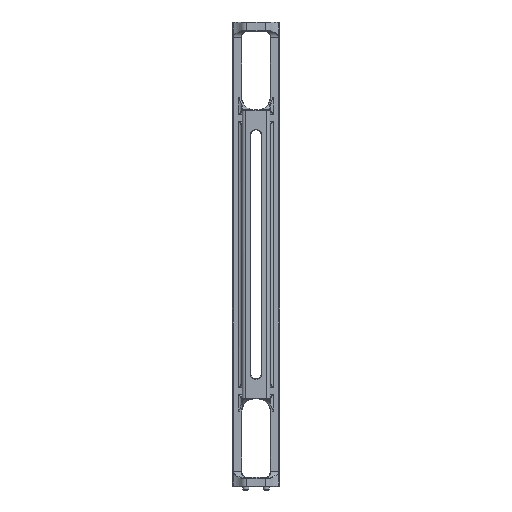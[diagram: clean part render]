
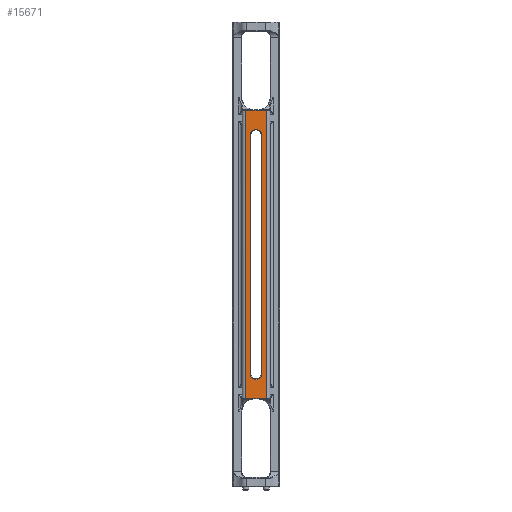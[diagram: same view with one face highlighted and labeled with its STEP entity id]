
A CAD part, front view. The second image highlights one B-rep face of the part: STEP entity #15671.
In plain terms, the highlighted planar face has unit normal (0, -1, 0).
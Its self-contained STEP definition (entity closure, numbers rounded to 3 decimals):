
#442 = ORIENTED_EDGE ( 'NONE', *, *, #7122, .T. ) ;
#912 = CARTESIAN_POINT ( 'NONE',  ( -3.5, 43.598, 119.848 ) ) ;
#965 = ORIENTED_EDGE ( 'NONE', *, *, #3956, .T. ) ;
#1145 = LINE ( 'NONE', #13637, #12261 ) ;
#1156 = EDGE_CURVE ( 'NONE', #6567, #6650, #15718, .T. ) ;
#1351 = CARTESIAN_POINT ( 'NONE',  ( 2.333, 43.598, 28.152 ) ) ;
#1498 = CARTESIAN_POINT ( 'NONE',  ( 3.5, 43.598, 12.311 ) ) ;
#1518 = CARTESIAN_POINT ( 'NONE',  ( 1.85, 43.598, 12.311 ) ) ;
#2040 = CARTESIAN_POINT ( 'NONE',  ( 0., 43.598, 28.152 ) ) ;
#2145 = VECTOR ( 'NONE', #13586, 1000. ) ;
#2158 = EDGE_CURVE ( 'NONE', #4256, #3081, #9572, .T. ) ;
#2231 = CARTESIAN_POINT ( 'NONE',  ( 0., 43.598, 119.848 ) ) ;
#2848 = EDGE_CURVE ( 'NONE', #6650, #12084, #12468, .T. ) ;
#3081 = VERTEX_POINT ( 'NONE', #7914 ) ;
#3441 = VERTEX_POINT ( 'NONE', #14604 ) ;
#3735 = DIRECTION ( 'NONE',  ( 0., 0., 1. ) ) ;
#3956 = EDGE_CURVE ( 'NONE', #12084, #13422, #5820, .T. ) ;
#4062 = CARTESIAN_POINT ( 'NONE',  ( 3.5, 43.598, 28.152 ) ) ;
#4118 = ORIENTED_EDGE ( 'NONE', *, *, #4577, .T. ) ;
#4256 = VERTEX_POINT ( 'NONE', #11727 ) ;
#4394 = VECTOR ( 'NONE', #8294, 1000. ) ;
#4417 = CARTESIAN_POINT ( 'NONE',  ( -1.85, 43.598, 112. ) ) ;
#4577 = EDGE_CURVE ( 'NONE', #8384, #15880, #14852, .T. ) ;
#5259 = FACE_BOUND ( 'NONE', #16697, .T. ) ;
#5506 = CARTESIAN_POINT ( 'NONE',  ( 3.5, 43.598, 119.848 ) ) ;
#5721 = VERTEX_POINT ( 'NONE', #4417 ) ;
#5820 = B_SPLINE_CURVE_WITH_KNOTS ( 'NONE', 3,
 ( #13912, #10872, #14756, #11876 ),
 .UNSPECIFIED., .F., .F.,
 ( 4, 4 ),
 ( 0., 1. ),
 .UNSPECIFIED. ) ;
#6043 = CARTESIAN_POINT ( 'NONE',  ( -2.333, 43.598, 28.152 ) ) ;
#6078 = EDGE_CURVE ( 'NONE', #15880, #6567, #11465, .T. ) ;
#6406 = DIRECTION ( 'NONE',  ( 0., 1., 0. ) ) ;
#6531 = FACE_OUTER_BOUND ( 'NONE', #9735, .T. ) ;
#6567 = VERTEX_POINT ( 'NONE', #2040 ) ;
#6615 = PLANE ( 'NONE',  #17137 ) ;
#6650 = VERTEX_POINT ( 'NONE', #4062 ) ;
#6668 = CARTESIAN_POINT ( 'NONE',  ( 0., 43.598, 112. ) ) ;
#6811 = CARTESIAN_POINT ( 'NONE',  ( -2.333, 43.598, 119.848 ) ) ;
#7094 = DIRECTION ( 'NONE',  ( 0., 0., 1. ) ) ;
#7122 = EDGE_CURVE ( 'NONE', #5721, #4256, #15026, .T. ) ;
#7712 = CARTESIAN_POINT ( 'NONE',  ( 0., 43.598, 36. ) ) ;
#7914 = CARTESIAN_POINT ( 'NONE',  ( 1.85, 43.598, 36. ) ) ;
#7977 = DIRECTION ( 'NONE',  ( 0., 0., 1. ) ) ;
#8217 = CARTESIAN_POINT ( 'NONE',  ( 1.167, 43.598, 28.152 ) ) ;
#8294 = DIRECTION ( 'NONE',  ( 0., 0., -1. ) ) ;
#8384 = VERTEX_POINT ( 'NONE', #912 ) ;
#8571 = CARTESIAN_POINT ( 'NONE',  ( -3.5, 43.598, 28.152 ) ) ;
#8647 = AXIS2_PLACEMENT_3D ( 'NONE', #6668, #6406, #13481 ) ;
#8966 = ORIENTED_EDGE ( 'NONE', *, *, #9567, .T. ) ;
#9335 = ORIENTED_EDGE ( 'NONE', *, *, #6078, .T. ) ;
#9567 = EDGE_CURVE ( 'NONE', #13422, #8384, #17493, .T. ) ;
#9572 = LINE ( 'NONE', #1518, #4394 ) ;
#9735 = EDGE_LOOP ( 'NONE', ( #13272, #965, #8966, #4118, #9335, #16669 ) ) ;
#10258 = ORIENTED_EDGE ( 'NONE', *, *, #10632, .T. ) ;
#10632 = EDGE_CURVE ( 'NONE', #3441, #5721, #1145, .T. ) ;
#10707 = CARTESIAN_POINT ( 'NONE',  ( 4.5, 43.598, 12.311 ) ) ;
#10872 = CARTESIAN_POINT ( 'NONE',  ( 2.333, 43.598, 119.848 ) ) ;
#11062 = ORIENTED_EDGE ( 'NONE', *, *, #15681, .T. ) ;
#11075 = VECTOR ( 'NONE', #7094, 1000. ) ;
#11176 = ORIENTED_EDGE ( 'NONE', *, *, #2158, .T. ) ;
#11465 = B_SPLINE_CURVE_WITH_KNOTS ( 'NONE', 3,
 ( #8571, #6043, #14108, #11580 ),
 .UNSPECIFIED., .F., .F.,
 ( 4, 4 ),
 ( 0., 1. ),
 .UNSPECIFIED. ) ;
#11580 = CARTESIAN_POINT ( 'NONE',  ( 0., 43.598, 28.152 ) ) ;
#11727 = CARTESIAN_POINT ( 'NONE',  ( 1.85, 43.598, 112. ) ) ;
#11876 = CARTESIAN_POINT ( 'NONE',  ( 0., 43.598, 119.848 ) ) ;
#12084 = VERTEX_POINT ( 'NONE', #5506 ) ;
#12261 = VECTOR ( 'NONE', #14166, 1000. ) ;
#12403 = CARTESIAN_POINT ( 'NONE',  ( 3.5, 43.598, 28.152 ) ) ;
#12415 = CARTESIAN_POINT ( 'NONE',  ( -3.5, 43.598, 28.152 ) ) ;
#12468 = LINE ( 'NONE', #1498, #11075 ) ;
#13272 = ORIENTED_EDGE ( 'NONE', *, *, #2848, .T. ) ;
#13286 = CARTESIAN_POINT ( 'NONE',  ( -3.5, 43.598, 119.848 ) ) ;
#13422 = VERTEX_POINT ( 'NONE', #15435 ) ;
#13432 = DIRECTION ( 'NONE',  ( 0., 1., 0. ) ) ;
#13481 = DIRECTION ( 'NONE',  ( 0., 0., 1. ) ) ;
#13586 = DIRECTION ( 'NONE',  ( 0., 0., -1. ) ) ;
#13637 = CARTESIAN_POINT ( 'NONE',  ( -1.85, 43.598, 12.311 ) ) ;
#13912 = CARTESIAN_POINT ( 'NONE',  ( 3.5, 43.598, 119.848 ) ) ;
#13945 = CIRCLE ( 'NONE', #15097, 1.85 ) ;
#14108 = CARTESIAN_POINT ( 'NONE',  ( -1.167, 43.598, 28.152 ) ) ;
#14166 = DIRECTION ( 'NONE',  ( 0., 0., 1. ) ) ;
#14604 = CARTESIAN_POINT ( 'NONE',  ( -1.85, 43.598, 36. ) ) ;
#14674 = CARTESIAN_POINT ( 'NONE',  ( -3.5, 43.598, 12.311 ) ) ;
#14756 = CARTESIAN_POINT ( 'NONE',  ( 1.167, 43.598, 119.848 ) ) ;
#14852 = LINE ( 'NONE', #14674, #2145 ) ;
#15026 = CIRCLE ( 'NONE', #8647, 1.85 ) ;
#15097 = AXIS2_PLACEMENT_3D ( 'NONE', #7712, #13432, #7977 ) ;
#15113 = CARTESIAN_POINT ( 'NONE',  ( 0., 43.598, 28.152 ) ) ;
#15435 = CARTESIAN_POINT ( 'NONE',  ( 0., 43.598, 119.848 ) ) ;
#15671 = ADVANCED_FACE ( 'NONE', ( #5259, #6531 ), #6615, .F. ) ;
#15681 = EDGE_CURVE ( 'NONE', #3081, #3441, #13945, .T. ) ;
#15718 = B_SPLINE_CURVE_WITH_KNOTS ( 'NONE', 3,
 ( #15113, #8217, #1351, #12403 ),
 .UNSPECIFIED., .F., .F.,
 ( 4, 4 ),
 ( 0., 1. ),
 .UNSPECIFIED. ) ;
#15880 = VERTEX_POINT ( 'NONE', #12415 ) ;
#16669 = ORIENTED_EDGE ( 'NONE', *, *, #1156, .T. ) ;
#16697 = EDGE_LOOP ( 'NONE', ( #10258, #442, #11176, #11062 ) ) ;
#17137 = AXIS2_PLACEMENT_3D ( 'NONE', #10707, #17684, #3735 ) ;
#17277 = CARTESIAN_POINT ( 'NONE',  ( -1.167, 43.598, 119.848 ) ) ;
#17493 = B_SPLINE_CURVE_WITH_KNOTS ( 'NONE', 3,
 ( #2231, #17277, #6811, #13286 ),
 .UNSPECIFIED., .F., .F.,
 ( 4, 4 ),
 ( 0., 1. ),
 .UNSPECIFIED. ) ;
#17684 = DIRECTION ( 'NONE',  ( 0., 1., 0. ) ) ;
